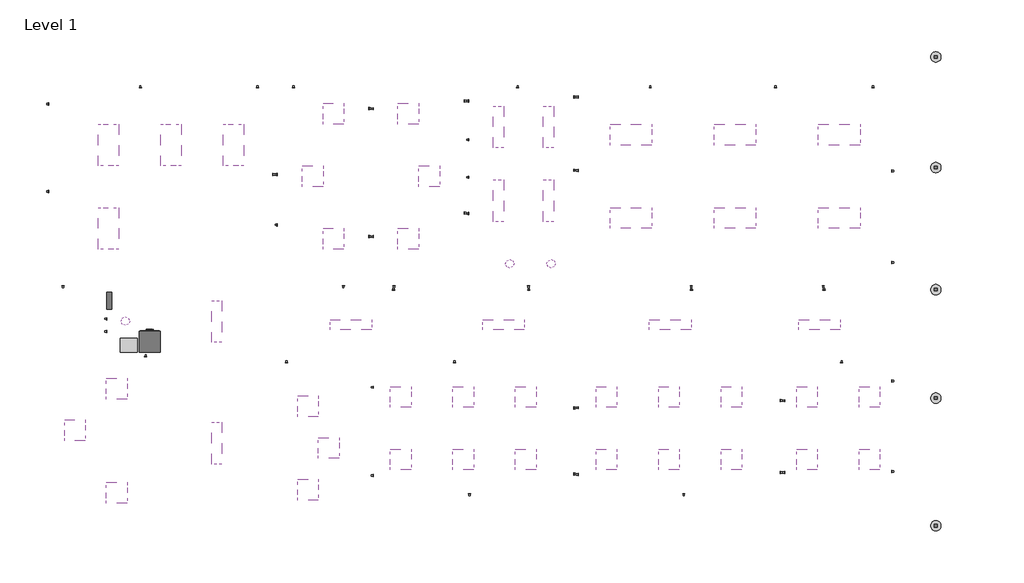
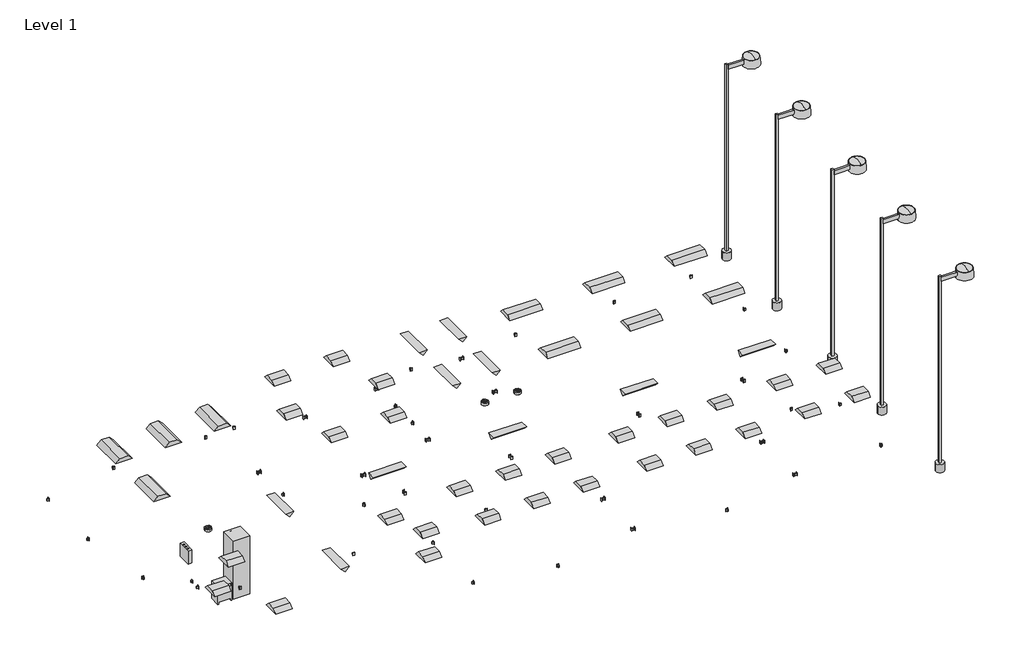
# One storey: 61 proxies, 56 light fixtures.
"""IFC4 building model written with IfcOpenShell, lengths in millimetres."""

from ifc_helpers import new_model, si_unit, origin, place, context, project, spatial, transform, mapped, element, save
from components import proxy_15_kva_b0f935c8, duplex_receptacle_standard_10251bba, lighting_and_appliance_panelboard_208v_100_a_7126e705, proxy_f2fcea41, ceiling_light_flat_round_60w_120v_a3c1fe64, plain_recessed_lighting_fixture_1x4_120_73690371, plain_recessed_lighting_fixture_2x2_120_2107ce2d, plain_recessed_lighting_fixture_2x4_120_d3d5fc87, street_light_standard_400w_halogen_120v_63d2c179

model = new_model("IFC4")

# Units and contexts
model_context = context("Model", 3, world=origin())
ifc_project = project(units=[si_unit("LENGTHUNIT", "METRE", prefix="MILLI")], contexts=[model_context])

# Site, building, storey
site = spatial("IfcSite", under=ifc_project)
building = spatial("IfcBuilding", under=site)
storey = spatial("IfcBuildingStorey", under=building, Name="Level 1", Elevation=0.0)

# Proxies
placement = place(None, origin())
proxy_15_kva_shape = proxy_15_kva_b0f935c8(model_context)
element("IfcBuildingElementProxy", 1, Name="Dry Type Transformer - 480-208Y120 - NEMA Type 2 : 15 kVA", ObjectType="Dry Type Transformer - 480-208Y120 - NEMA Type 2 : 15 kVA", at=placement, inside=storey, context=model_context, shape_type="MappedRepresentation", body=[
    mapped(proxy_15_kva_shape, transform((-9977.4200118, -1021.8173203, 0.0), x_axis=(-1.0, 0.0, 0.0), y_axis=(0.0, -1.0, 0.0), z_axis=(0.0, 0.0, 1.0))),
])
duplex_receptacle_standard_shape = duplex_receptacle_standard_10251bba(model_context)
element("IfcBuildingElementProxy", 2, Name="Duplex Receptacle : Standard", ObjectType="Duplex Receptacle : Standard", at=placement, inside=storey, context=model_context, shape_type="MappedRepresentation", body=[
    mapped(duplex_receptacle_standard_shape, transform((-35.6380103, 2648.1174507, 457.2), x_axis=(0.0, 1.0, 0.0), y_axis=(0.0, 0.0, 1.0), z_axis=(1.0, 0.0, 0.0))),
])
element("IfcBuildingElementProxy", 3, Name="Duplex Receptacle : Standard", ObjectType="Duplex Receptacle : Standard", at=placement, inside=storey, context=model_context, shape_type="MappedRepresentation", body=[
    mapped(duplex_receptacle_standard_shape, transform((-35.6380103, 3713.8918475, 457.2), x_axis=(0.0, 1.0, 0.0), y_axis=(0.0, 0.0, 1.0), z_axis=(1.0, 0.0, 0.0))),
])
element("IfcBuildingElementProxy", 4, Name="Duplex Receptacle : Standard", ObjectType="Duplex Receptacle : Standard", at=placement, inside=storey, context=model_context, shape_type="MappedRepresentation", body=[
    mapped(duplex_receptacle_standard_shape, transform((-35.6380103, 4811.7196097, 457.2), x_axis=(0.0, 1.0, 0.0), y_axis=(0.0, 0.0, 1.0), z_axis=(1.0, 0.0, 0.0))),
])
element("IfcBuildingElementProxy", 5, Name="Duplex Receptacle : Standard", ObjectType="Duplex Receptacle : Standard", at=placement, inside=storey, context=model_context, shape_type="MappedRepresentation", body=[
    mapped(duplex_receptacle_standard_shape, transform((-35.6380103, 5949.6140785, 457.2), x_axis=(0.0, 1.0, 0.0), y_axis=(0.0, 0.0, 1.0), z_axis=(1.0, 0.0, 0.0))),
])
element("IfcBuildingElementProxy", 6, Name="Duplex Receptacle : Standard", ObjectType="Duplex Receptacle : Standard", at=placement, inside=storey, context=model_context, shape_type="MappedRepresentation", body=[
    mapped(duplex_receptacle_standard_shape, transform((3054.9541807, 6058.3078836, 457.2), x_axis=(0.0, -1.0, 0.0), y_axis=(0.0, 0.0, 1.0), z_axis=(-1.0, 0.0, 0.0))),
])
element("IfcBuildingElementProxy", 7, Name="Duplex Receptacle : Standard", ObjectType="Duplex Receptacle : Standard", at=placement, inside=storey, context=model_context, shape_type="MappedRepresentation", body=[
    mapped(duplex_receptacle_standard_shape, transform((3054.9541807, 3918.7457486, 457.2), x_axis=(0.0, -1.0, 0.0), y_axis=(0.0, 0.0, 1.0), z_axis=(-1.0, 0.0, 0.0))),
])
element("IfcBuildingElementProxy", 8, Name="Duplex Receptacle : Standard", ObjectType="Duplex Receptacle : Standard", at=placement, inside=storey, context=model_context, shape_type="MappedRepresentation", body=[
    mapped(duplex_receptacle_standard_shape, transform((1404.1361978, 6330.7167452, 457.2), x_axis=(1.0, 0.0, 0.0), y_axis=(0.0, 0.0, 1.0), z_axis=(0.0, -1.0, 0.0))),
])
element("IfcBuildingElementProxy", 9, Name="Duplex Receptacle : Standard", ObjectType="Duplex Receptacle : Standard", at=placement, inside=storey, context=model_context, shape_type="MappedRepresentation", body=[
    mapped(duplex_receptacle_standard_shape, transform((-11896.9375423, 539.3362982, 457.2), x_axis=(-1.0, 0.0, 0.0), y_axis=(0.0, 0.0, 1.0), z_axis=(0.0, 1.0, 0.0))),
])
element("IfcBuildingElementProxy", 10, Name="Duplex Receptacle : Standard", ObjectType="Duplex Receptacle : Standard", at=placement, inside=storey, context=model_context, shape_type="MappedRepresentation", body=[
    mapped(duplex_receptacle_standard_shape, transform((-12326.8965226, 3293.728876, 457.2), x_axis=(0.0, 1.0, 0.0), y_axis=(0.0, 0.0, 1.0), z_axis=(1.0, 0.0, 0.0))),
])
element("IfcBuildingElementProxy", 11, Name="Duplex Receptacle : Standard", ObjectType="Duplex Receptacle : Standard", at=placement, inside=storey, context=model_context, shape_type="MappedRepresentation", body=[
    mapped(duplex_receptacle_standard_shape, transform((-12326.8965226, 5855.4034771, 457.2), x_axis=(0.0, 1.0, 0.0), y_axis=(0.0, 0.0, 1.0), z_axis=(1.0, 0.0, 0.0))),
])
element("IfcBuildingElementProxy", 12, Name="Duplex Receptacle : Standard", ObjectType="Duplex Receptacle : Standard", at=placement, inside=storey, context=model_context, shape_type="MappedRepresentation", body=[
    mapped(duplex_receptacle_standard_shape, transform((-9637.0519321, 6330.7167452, 457.2), x_axis=(1.0, 0.0, 0.0), y_axis=(0.0, 0.0, 1.0), z_axis=(0.0, -1.0, 0.0))),
])
element("IfcBuildingElementProxy", 13, Name="Duplex Receptacle : Standard", ObjectType="Duplex Receptacle : Standard", at=placement, inside=storey, context=model_context, shape_type="MappedRepresentation", body=[
    mapped(duplex_receptacle_standard_shape, transform((-6212.0214597, 6330.7167452, 457.2), x_axis=(1.0, 0.0, 0.0), y_axis=(0.0, 0.0, 1.0), z_axis=(0.0, -1.0, 0.0))),
])
element("IfcBuildingElementProxy", 14, Name="Duplex Receptacle : Standard", ObjectType="Duplex Receptacle : Standard", at=placement, inside=storey, context=model_context, shape_type="MappedRepresentation", body=[
    mapped(duplex_receptacle_standard_shape, transform((-5761.7329716, 3793.1487614, 457.2), x_axis=(0.0, -1.0, 0.0), y_axis=(0.0, 0.0, 1.0), z_axis=(-1.0, 0.0, 0.0))),
])
element("IfcBuildingElementProxy", 15, Name="Duplex Receptacle : Standard", ObjectType="Duplex Receptacle : Standard", at=placement, inside=storey, context=model_context, shape_type="MappedRepresentation", body=[
    mapped(duplex_receptacle_standard_shape, transform((-3696.8781677, 539.3362982, 457.2), x_axis=(-1.0, 0.0, 0.0), y_axis=(0.0, 0.0, 1.0), z_axis=(0.0, 1.0, 0.0))),
])
element("IfcBuildingElementProxy", 16, Name="Duplex Receptacle : Standard", ObjectType="Duplex Receptacle : Standard", at=placement, inside=storey, context=model_context, shape_type="MappedRepresentation", body=[
    mapped(duplex_receptacle_standard_shape, transform((-2943.0314516, 1977.435622, 457.2), x_axis=(0.0, -1.0, 0.0), y_axis=(0.0, 0.0, 1.0), z_axis=(-1.0, 0.0, 0.0))),
])
element("IfcBuildingElementProxy", 17, Name="Duplex Receptacle : Standard", ObjectType="Duplex Receptacle : Standard", at=placement, inside=storey, context=model_context, shape_type="MappedRepresentation", body=[
    mapped(duplex_receptacle_standard_shape, transform((-2943.0314516, 5727.6793643, 457.2), x_axis=(0.0, -1.0, 0.0), y_axis=(0.0, 0.0, 1.0), z_axis=(-1.0, 0.0, 0.0))),
])
element("IfcBuildingElementProxy", 18, Name="Duplex Receptacle : Standard", ObjectType="Duplex Receptacle : Standard", at=placement, inside=storey, context=model_context, shape_type="MappedRepresentation", body=[
    mapped(duplex_receptacle_standard_shape, transform((-5155.3062897, 6330.7167452, 457.2), x_axis=(1.0, 0.0, 0.0), y_axis=(0.0, 0.0, 1.0), z_axis=(0.0, -1.0, 0.0))),
])
element("IfcBuildingElementProxy", 19, Name="Duplex Receptacle : Standard", ObjectType="Duplex Receptacle : Standard", at=placement, inside=storey, context=model_context, shape_type="MappedRepresentation", body=[
    mapped(duplex_receptacle_standard_shape, transform((-5637.9079716, 3796.4641038, 457.2), x_axis=(0.0, 1.0, 0.0), y_axis=(0.0, 0.0, 1.0), z_axis=(1.0, 0.0, 0.0))),
])
element("IfcBuildingElementProxy", 20, Name="Duplex Receptacle : Standard", ObjectType="Duplex Receptacle : Standard", at=placement, inside=storey, context=model_context, shape_type="MappedRepresentation", body=[
    mapped(duplex_receptacle_standard_shape, transform((-5637.9079716, 2322.0092992, 457.2), x_axis=(0.0, 1.0, 0.0), y_axis=(0.0, 0.0, 1.0), z_axis=(1.0, 0.0, 0.0))),
])
element("IfcBuildingElementProxy", 21, Name="Duplex Receptacle : Standard", ObjectType="Duplex Receptacle : Standard", at=placement, inside=storey, context=model_context, shape_type="MappedRepresentation", body=[
    mapped(duplex_receptacle_standard_shape, transform((-2819.2064516, 5717.2271799, 457.2), x_axis=(0.0, 1.0, 0.0), y_axis=(0.0, 0.0, 1.0), z_axis=(1.0, 0.0, 0.0))),
])
element("IfcBuildingElementProxy", 22, Name="Duplex Receptacle : Standard", ObjectType="Duplex Receptacle : Standard", at=placement, inside=storey, context=model_context, shape_type="MappedRepresentation", body=[
    mapped(duplex_receptacle_standard_shape, transform((-2819.2064516, 1974.996779, 457.2), x_axis=(0.0, 1.0, 0.0), y_axis=(0.0, 0.0, 1.0), z_axis=(1.0, 0.0, 0.0))),
])
element("IfcBuildingElementProxy", 23, Name="Duplex Receptacle : Standard", ObjectType="Duplex Receptacle : Standard", at=placement, inside=storey, context=model_context, shape_type="MappedRepresentation", body=[
    mapped(duplex_receptacle_standard_shape, transform((-2217.8940832, 539.3362982, 457.2), x_axis=(-1.0, 0.0, 0.0), y_axis=(0.0, 0.0, 1.0), z_axis=(0.0, 1.0, 0.0))),
])
element("IfcBuildingElementProxy", 24, Name="Duplex Receptacle : Standard", ObjectType="Duplex Receptacle : Standard", at=placement, inside=storey, context=model_context, shape_type="MappedRepresentation", body=[
    mapped(duplex_receptacle_standard_shape, transform((-159.4630103, 5949.6140785, 457.2), x_axis=(0.0, -1.0, 0.0), y_axis=(0.0, 0.0, 1.0), z_axis=(-1.0, 0.0, 0.0))),
])
element("IfcBuildingElementProxy", 25, Name="Duplex Receptacle : Standard", ObjectType="Duplex Receptacle : Standard", at=placement, inside=storey, context=model_context, shape_type="MappedRepresentation", body=[
    mapped(duplex_receptacle_standard_shape, transform((-159.4630103, 2664.1441333, 457.2), x_axis=(0.0, -1.0, 0.0), y_axis=(0.0, 0.0, 1.0), z_axis=(-1.0, 0.0, 0.0))),
])
element("IfcBuildingElementProxy", 26, Name="Duplex Receptacle : Standard", ObjectType="Duplex Receptacle : Standard", at=placement, inside=storey, context=model_context, shape_type="MappedRepresentation", body=[
    mapped(duplex_receptacle_standard_shape, transform((3178.7791807, 3910.7324072, 457.2), x_axis=(0.0, 1.0, 0.0), y_axis=(0.0, 0.0, 1.0), z_axis=(1.0, 0.0, 0.0))),
])
element("IfcBuildingElementProxy", 27, Name="Duplex Receptacle : Standard", ObjectType="Duplex Receptacle : Standard", at=placement, inside=storey, context=model_context, shape_type="MappedRepresentation", body=[
    mapped(duplex_receptacle_standard_shape, transform((3178.7791807, 6058.3078836, 457.2), x_axis=(0.0, 1.0, 0.0), y_axis=(0.0, 0.0, 1.0), z_axis=(1.0, 0.0, 0.0))),
])
element("IfcBuildingElementProxy", 28, Name="Duplex Receptacle : Standard", ObjectType="Duplex Receptacle : Standard", at=placement, inside=storey, context=model_context, shape_type="MappedRepresentation", body=[
    mapped(duplex_receptacle_standard_shape, transform((5282.5934014, 6330.7167452, 457.2), x_axis=(1.0, 0.0, 0.0), y_axis=(0.0, 0.0, 1.0), z_axis=(0.0, -1.0, 0.0))),
])
element("IfcBuildingElementProxy", 29, Name="Duplex Receptacle : Standard", ObjectType="Duplex Receptacle : Standard", at=placement, inside=storey, context=model_context, shape_type="MappedRepresentation", body=[
    mapped(duplex_receptacle_standard_shape, transform((8952.7037304, 6330.7167452, 457.2), x_axis=(1.0, 0.0, 0.0), y_axis=(0.0, 0.0, 1.0), z_axis=(0.0, -1.0, 0.0))),
])
element("IfcBuildingElementProxy", 30, Name="Duplex Receptacle : Standard", ObjectType="Duplex Receptacle : Standard", at=placement, inside=storey, context=model_context, shape_type="MappedRepresentation", body=[
    mapped(duplex_receptacle_standard_shape, transform((11805.4532437, 6330.7167452, 457.2), x_axis=(1.0, 0.0, 0.0), y_axis=(0.0, 0.0, 1.0), z_axis=(0.0, -1.0, 0.0))),
])
element("IfcBuildingElementProxy", 31, Name="Duplex Receptacle : Standard", ObjectType="Duplex Receptacle : Standard", at=placement, inside=storey, context=model_context, shape_type="MappedRepresentation", body=[
    mapped(duplex_receptacle_standard_shape, transform((12355.5534774, 3898.1986981, 457.2), x_axis=(0.0, -1.0, 0.0), y_axis=(0.0, 0.0, 1.0), z_axis=(-1.0, 0.0, 0.0))),
])
element("IfcBuildingElementProxy", 32, Name="Duplex Receptacle : Standard", ObjectType="Duplex Receptacle : Standard", at=placement, inside=storey, context=model_context, shape_type="MappedRepresentation", body=[
    mapped(duplex_receptacle_standard_shape, transform((12355.5534774, 1221.742694, 457.2), x_axis=(0.0, -1.0, 0.0), y_axis=(0.0, 0.0, 1.0), z_axis=(-1.0, 0.0, 0.0))),
])
element("IfcBuildingElementProxy", 33, Name="Duplex Receptacle : Standard", ObjectType="Duplex Receptacle : Standard", at=placement, inside=storey, context=model_context, shape_type="MappedRepresentation", body=[
    mapped(duplex_receptacle_standard_shape, transform((10347.0251217, 539.3362982, 457.2), x_axis=(-1.0, 0.0, 0.0), y_axis=(0.0, 0.0, 1.0), z_axis=(0.0, 1.0, 0.0))),
])
element("IfcBuildingElementProxy", 34, Name="Duplex Receptacle : Standard", ObjectType="Duplex Receptacle : Standard", at=placement, inside=storey, context=model_context, shape_type="MappedRepresentation", body=[
    mapped(duplex_receptacle_standard_shape, transform((6484.5946008, 539.3362982, 457.2), x_axis=(-1.0, 0.0, 0.0), y_axis=(0.0, 0.0, 1.0), z_axis=(0.0, 1.0, 0.0))),
])
element("IfcBuildingElementProxy", 35, Name="Duplex Receptacle : Standard", ObjectType="Duplex Receptacle : Standard", at=placement, inside=storey, context=model_context, shape_type="MappedRepresentation", body=[
    mapped(duplex_receptacle_standard_shape, transform((10364.3439331, 415.5112982, 457.2), x_axis=(1.0, 0.0, 0.0), y_axis=(0.0, 0.0, 1.0), z_axis=(0.0, -1.0, 0.0))),
])
element("IfcBuildingElementProxy", 36, Name="Duplex Receptacle : Standard", ObjectType="Duplex Receptacle : Standard", at=placement, inside=storey, context=model_context, shape_type="MappedRepresentation", body=[
    mapped(duplex_receptacle_standard_shape, transform((6485.6062626, 415.5112982, 457.2), x_axis=(1.0, 0.0, 0.0), y_axis=(0.0, 0.0, 1.0), z_axis=(0.0, -1.0, 0.0))),
])
element("IfcBuildingElementProxy", 37, Name="Duplex Receptacle : Standard", ObjectType="Duplex Receptacle : Standard", at=placement, inside=storey, context=model_context, shape_type="MappedRepresentation", body=[
    mapped(duplex_receptacle_standard_shape, transform((1727.2641477, 415.5112982, 457.2), x_axis=(1.0, 0.0, 0.0), y_axis=(0.0, 0.0, 1.0), z_axis=(0.0, -1.0, 0.0))),
])
element("IfcBuildingElementProxy", 38, Name="Duplex Receptacle : Standard", ObjectType="Duplex Receptacle : Standard", at=placement, inside=storey, context=model_context, shape_type="MappedRepresentation", body=[
    mapped(duplex_receptacle_standard_shape, transform((1724.669851, 539.3362982, 457.2), x_axis=(-1.0, 0.0, 0.0), y_axis=(0.0, 0.0, 1.0), z_axis=(0.0, 1.0, 0.0))),
])
element("IfcBuildingElementProxy", 39, Name="Duplex Receptacle : Standard", ObjectType="Duplex Receptacle : Standard", at=placement, inside=storey, context=model_context, shape_type="MappedRepresentation", body=[
    mapped(duplex_receptacle_standard_shape, transform((-2225.6570301, 415.5112982, 457.2), x_axis=(1.0, 0.0, 0.0), y_axis=(0.0, 0.0, 1.0), z_axis=(0.0, -1.0, 0.0))),
])
element("IfcBuildingElementProxy", 40, Name="Duplex Receptacle : Standard", ObjectType="Duplex Receptacle : Standard", at=placement, inside=storey, context=model_context, shape_type="MappedRepresentation", body=[
    mapped(duplex_receptacle_standard_shape, transform((10884.0330798, -1710.3119449, 457.2), x_axis=(1.0, 0.0, 0.0), y_axis=(0.0, 0.0, 1.0), z_axis=(0.0, -1.0, 0.0))),
])
element("IfcBuildingElementProxy", 41, Name="Duplex Receptacle : Standard", ObjectType="Duplex Receptacle : Standard", at=placement, inside=storey, context=model_context, shape_type="MappedRepresentation", body=[
    mapped(duplex_receptacle_standard_shape, transform((12355.5534774, -2243.543179, 457.2), x_axis=(0.0, -1.0, 0.0), y_axis=(0.0, 0.0, 1.0), z_axis=(-1.0, 0.0, 0.0))),
])
element("IfcBuildingElementProxy", 42, Name="Duplex Receptacle : Standard", ObjectType="Duplex Receptacle : Standard", at=placement, inside=storey, context=model_context, shape_type="MappedRepresentation", body=[
    mapped(duplex_receptacle_standard_shape, transform((12355.5534774, -4891.4298793, 457.2), x_axis=(0.0, -1.0, 0.0), y_axis=(0.0, 0.0, 1.0), z_axis=(-1.0, 0.0, 0.0))),
])
element("IfcBuildingElementProxy", 43, Name="Duplex Receptacle : Standard", ObjectType="Duplex Receptacle : Standard", at=placement, inside=storey, context=model_context, shape_type="MappedRepresentation", body=[
    mapped(duplex_receptacle_standard_shape, transform((9215.7608002, -4927.7853031, 457.2), x_axis=(0.0, 1.0, 0.0), y_axis=(0.0, 0.0, 1.0), z_axis=(1.0, 0.0, 0.0))),
])
element("IfcBuildingElementProxy", 44, Name="Duplex Receptacle : Standard", ObjectType="Duplex Receptacle : Standard", at=placement, inside=storey, context=model_context, shape_type="MappedRepresentation", body=[
    mapped(duplex_receptacle_standard_shape, transform((9215.7608002, -2825.2299599, 457.2), x_axis=(0.0, 1.0, 0.0), y_axis=(0.0, 0.0, 1.0), z_axis=(1.0, 0.0, 0.0))),
])
element("IfcBuildingElementProxy", 45, Name="Duplex Receptacle : Standard", ObjectType="Duplex Receptacle : Standard", at=placement, inside=storey, context=model_context, shape_type="MappedRepresentation", body=[
    mapped(duplex_receptacle_standard_shape, transform((9091.9358002, -2822.2003412, 457.2), x_axis=(0.0, -1.0, 0.0), y_axis=(0.0, 0.0, 1.0), z_axis=(-1.0, 0.0, 0.0))),
])
element("IfcBuildingElementProxy", 46, Name="Duplex Receptacle : Standard", ObjectType="Duplex Receptacle : Standard", at=placement, inside=storey, context=model_context, shape_type="MappedRepresentation", body=[
    mapped(duplex_receptacle_standard_shape, transform((9091.9358002, -4926.5734556, 457.2), x_axis=(0.0, -1.0, 0.0), y_axis=(0.0, 0.0, 1.0), z_axis=(-1.0, 0.0, 0.0))),
])
element("IfcBuildingElementProxy", 47, Name="Duplex Receptacle : Standard", ObjectType="Duplex Receptacle : Standard", at=placement, inside=storey, context=model_context, shape_type="MappedRepresentation", body=[
    mapped(duplex_receptacle_standard_shape, transform((6264.7735239, -5550.1332548, 457.2), x_axis=(-1.0, 0.0, 0.0), y_axis=(0.0, 0.0, 1.0), z_axis=(0.0, 1.0, 0.0))),
])
element("IfcBuildingElementProxy", 48, Name="Duplex Receptacle : Standard", ObjectType="Duplex Receptacle : Standard", at=placement, inside=storey, context=model_context, shape_type="MappedRepresentation", body=[
    mapped(duplex_receptacle_standard_shape, transform((3178.7791807, -4982.3184388, 457.2), x_axis=(0.0, 1.0, 0.0), y_axis=(0.0, 0.0, 1.0), z_axis=(1.0, 0.0, 0.0))),
])
element("IfcBuildingElementProxy", 49, Name="Duplex Receptacle : Standard", ObjectType="Duplex Receptacle : Standard", at=placement, inside=storey, context=model_context, shape_type="MappedRepresentation", body=[
    mapped(duplex_receptacle_standard_shape, transform((3178.7791807, -3031.2440281, 457.2), x_axis=(0.0, 1.0, 0.0), y_axis=(0.0, 0.0, 1.0), z_axis=(1.0, 0.0, 0.0))),
])
element("IfcBuildingElementProxy", 50, Name="Duplex Receptacle : Standard", ObjectType="Duplex Receptacle : Standard", at=placement, inside=storey, context=model_context, shape_type="MappedRepresentation", body=[
    mapped(duplex_receptacle_standard_shape, transform((3054.9541807, -3040.6605751, 457.2), x_axis=(0.0, -1.0, 0.0), y_axis=(0.0, 0.0, 1.0), z_axis=(-1.0, 0.0, 0.0))),
])
element("IfcBuildingElementProxy", 51, Name="Duplex Receptacle : Standard", ObjectType="Duplex Receptacle : Standard", at=placement, inside=storey, context=model_context, shape_type="MappedRepresentation", body=[
    mapped(duplex_receptacle_standard_shape, transform((3054.9541807, -4971.8758356, 457.2), x_axis=(0.0, -1.0, 0.0), y_axis=(0.0, 0.0, 1.0), z_axis=(-1.0, 0.0, 0.0))),
])
element("IfcBuildingElementProxy", 52, Name="Duplex Receptacle : Standard", ObjectType="Duplex Receptacle : Standard", at=placement, inside=storey, context=model_context, shape_type="MappedRepresentation", body=[
    mapped(duplex_receptacle_standard_shape, transform((-2819.2064516, -5011.9425422, 457.2), x_axis=(0.0, 1.0, 0.0), y_axis=(0.0, 0.0, 1.0), z_axis=(1.0, 0.0, 0.0))),
])
element("IfcBuildingElementProxy", 53, Name="Duplex Receptacle : Standard", ObjectType="Duplex Receptacle : Standard", at=placement, inside=storey, context=model_context, shape_type="MappedRepresentation", body=[
    mapped(duplex_receptacle_standard_shape, transform((-2819.2064516, -2431.6466341, 457.2), x_axis=(0.0, 1.0, 0.0), y_axis=(0.0, 0.0, 1.0), z_axis=(1.0, 0.0, 0.0))),
])
element("IfcBuildingElementProxy", 54, Name="Duplex Receptacle : Standard", ObjectType="Duplex Receptacle : Standard", at=placement, inside=storey, context=model_context, shape_type="MappedRepresentation", body=[
    mapped(duplex_receptacle_standard_shape, transform((-443.3364786, -1710.3119449, 457.2), x_axis=(1.0, 0.0, 0.0), y_axis=(0.0, 0.0, 1.0), z_axis=(0.0, -1.0, 0.0))),
])
element("IfcBuildingElementProxy", 55, Name="Duplex Receptacle : Standard", ObjectType="Duplex Receptacle : Standard", at=placement, inside=storey, context=model_context, shape_type="MappedRepresentation", body=[
    mapped(duplex_receptacle_standard_shape, transform((-2.6027055, -5550.1332548, 457.2), x_axis=(-1.0, 0.0, 0.0), y_axis=(0.0, 0.0, 1.0), z_axis=(0.0, 1.0, 0.0))),
])
element("IfcBuildingElementProxy", 56, Name="Duplex Receptacle : Standard", ObjectType="Duplex Receptacle : Standard", at=placement, inside=storey, context=model_context, shape_type="MappedRepresentation", body=[
    mapped(duplex_receptacle_standard_shape, transform((-5361.484653, -1710.3119449, 457.2), x_axis=(1.0, 0.0, 0.0), y_axis=(0.0, 0.0, 1.0), z_axis=(0.0, -1.0, 0.0))),
])
element("IfcBuildingElementProxy", 57, Name="Duplex Receptacle : Standard", ObjectType="Duplex Receptacle : Standard", at=placement, inside=storey, context=model_context, shape_type="MappedRepresentation", body=[
    mapped(duplex_receptacle_standard_shape, transform((-9480.7427635, -1530.7127622, 457.2), x_axis=(1.0, 0.0, 0.0), y_axis=(0.0, 0.0, 1.0), z_axis=(0.0, -1.0, 0.0))),
])
element("IfcBuildingElementProxy", 58, Name="Duplex Receptacle : Standard", ObjectType="Duplex Receptacle : Standard", at=placement, inside=storey, context=model_context, shape_type="MappedRepresentation", body=[
    mapped(duplex_receptacle_standard_shape, transform((-10618.9849987, -802.683715, 457.2), x_axis=(0.0, 1.0, 0.0), y_axis=(0.0, 0.0, 1.0), z_axis=(1.0, 0.0, 0.0))),
])
element("IfcBuildingElementProxy", 59, Name="Duplex Receptacle : Standard", ObjectType="Duplex Receptacle : Standard", at=placement, inside=storey, context=model_context, shape_type="MappedRepresentation", body=[
    mapped(duplex_receptacle_standard_shape, transform((-10618.9849987, -428.1176265, 457.2), x_axis=(0.0, 1.0, 0.0), y_axis=(0.0, 0.0, 1.0), z_axis=(1.0, 0.0, 0.0))),
])
lighting_and_appliance_panelboard_208v_100_a_shape = lighting_and_appliance_panelboard_208v_100_a_7126e705(model_context)
element("IfcBuildingElementProxy", 60, Name="Lighting and Appliance Panelboard - 208V : 100 A", ObjectType="Lighting and Appliance Panelboard - 208V : 100 A", at=placement, inside=storey, context=model_context, shape_type="MappedRepresentation", body=[
    mapped(lighting_and_appliance_panelboard_208v_100_a_shape, transform((-10618.9849987, 99.6800437, 1219.2), x_axis=(0.0, 1.0, 0.0), y_axis=(0.0, 0.0, -1.0), z_axis=(-1.0, 0.0, 0.0))),
])
proxy_shape = proxy_f2fcea41(model_context)
element("IfcBuildingElementProxy", 61, Name="Metering Switchboard : 24\"x26.25\"", ObjectType="Metering Switchboard : 24\"x26.25\"", at=placement, inside=storey, context=model_context, shape_type="MappedRepresentation", body=[
    mapped(proxy_shape, transform((-9356.388949, -1404.6099297, 0.0), x_axis=(-1.0, 0.0, 0.0), y_axis=(0.0, -1.0, 0.0), z_axis=(0.0, 0.0, 1.0))),
])

# Light fixtures
ceiling_light_flat_round_60w_120v_shape = ceiling_light_flat_round_60w_120v_a3c1fe64(model_context)
element("IfcLightFixture", 62, ObjectType="Ceiling Light - Flat Round : 60W - 120V", at=placement, inside=storey, context=model_context, shape_type="MappedRepresentation", body=[
    mapped(ceiling_light_flat_round_60w_120v_shape, transform((2383.8661295, 1183.5273163, 2438.4), x_axis=(1.0, 0.0, 0.0), y_axis=(0.0, -1.0, 0.0), z_axis=(0.0, 0.0, -1.0))),
])
element("IfcLightFixture", 63, ObjectType="Ceiling Light - Flat Round : 60W - 120V", at=placement, inside=storey, context=model_context, shape_type="MappedRepresentation", body=[
    mapped(ceiling_light_flat_round_60w_120v_shape, transform((1173.2843647, 1183.5273163, 2438.4), x_axis=(1.0, 0.0, 0.0), y_axis=(0.0, -1.0, 0.0), z_axis=(0.0, 0.0, -1.0))),
])
element("IfcLightFixture", 64, ObjectType="Ceiling Light - Flat Round : 60W - 120V", at=placement, inside=storey, context=model_context, shape_type="MappedRepresentation", body=[
    mapped(ceiling_light_flat_round_60w_120v_shape, transform((-10072.8185222, -495.688232, 2438.4), x_axis=(1.0, 0.0, 0.0), y_axis=(0.0, -1.0, 0.0), z_axis=(0.0, 0.0, -1.0))),
])
plain_recessed_lighting_fixture_1x4_120_shape = plain_recessed_lighting_fixture_1x4_120_73690371(model_context)
element("IfcLightFixture", 65, ObjectType="Plain Recessed Lighting Fixture : 1x4 - 120", at=placement, inside=storey, context=model_context, shape_type="MappedRepresentation", body=[
    mapped(plain_recessed_lighting_fixture_1x4_120_shape, transform((-4086.8396974, -448.5225822, 2438.4), x_axis=(1.0, 0.0, 0.0), y_axis=(0.0, 1.0, 0.0), z_axis=(0.0, 0.0, 1.0))),
])
element("IfcLightFixture", 66, ObjectType="Plain Recessed Lighting Fixture : 1x4 - 120", at=placement, inside=storey, context=model_context, shape_type="MappedRepresentation", body=[
    mapped(plain_recessed_lighting_fixture_1x4_120_shape, transform((383.5603026, -448.5225822, 2438.4), x_axis=(1.0, 0.0, 0.0), y_axis=(0.0, 1.0, 0.0), z_axis=(0.0, 0.0, 1.0))),
])
element("IfcLightFixture", 67, ObjectType="Plain Recessed Lighting Fixture : 1x4 - 120", at=placement, inside=storey, context=model_context, shape_type="MappedRepresentation", body=[
    mapped(plain_recessed_lighting_fixture_1x4_120_shape, transform((5260.3603026, -448.5225822, 2438.4), x_axis=(1.0, 0.0, 0.0), y_axis=(0.0, 1.0, 0.0), z_axis=(0.0, 0.0, 1.0))),
])
element("IfcLightFixture", 68, ObjectType="Plain Recessed Lighting Fixture : 1x4 - 120", at=placement, inside=storey, context=model_context, shape_type="MappedRepresentation", body=[
    mapped(plain_recessed_lighting_fixture_1x4_120_shape, transform((9629.1603026, -448.5225822, 2438.4), x_axis=(1.0, 0.0, 0.0), y_axis=(0.0, 1.0, 0.0), z_axis=(0.0, 0.0, 1.0))),
])
element("IfcLightFixture", 69, ObjectType="Plain Recessed Lighting Fixture : 1x4 - 120", at=placement, inside=storey, context=model_context, shape_type="MappedRepresentation", body=[
    mapped(plain_recessed_lighting_fixture_1x4_120_shape, transform((-7553.1170415, -1121.3482269, 2438.4), x_axis=(0.0, 1.0, 0.0), y_axis=(-1.0, 0.0, 0.0), z_axis=(0.0, 0.0, 1.0))),
])
element("IfcLightFixture", 70, ObjectType="Plain Recessed Lighting Fixture : 1x4 - 120", at=placement, inside=storey, context=model_context, shape_type="MappedRepresentation", body=[
    mapped(plain_recessed_lighting_fixture_1x4_120_shape, transform((-7553.1170415, -4680.447715, 2438.4), x_axis=(0.0, 1.0, 0.0), y_axis=(-1.0, 0.0, 0.0), z_axis=(0.0, 0.0, 1.0))),
])
element("IfcLightFixture", 71, ObjectType="Plain Recessed Lighting Fixture : 1x4 - 120", at=placement, inside=storey, context=model_context, shape_type="MappedRepresentation", body=[
    mapped(plain_recessed_lighting_fixture_1x4_120_shape, transform((690.4888321, 4574.6175062, 2438.4), x_axis=(0.0, 1.0, 0.0), y_axis=(-1.0, 0.0, 0.0), z_axis=(0.0, 0.0, 1.0))),
])
element("IfcLightFixture", 72, ObjectType="Plain Recessed Lighting Fixture : 1x4 - 120", at=placement, inside=storey, context=model_context, shape_type="MappedRepresentation", body=[
    mapped(plain_recessed_lighting_fixture_1x4_120_shape, transform((2158.6173709, 4574.6175062, 2438.4), x_axis=(0.0, 1.0, 0.0), y_axis=(-1.0, 0.0, 0.0), z_axis=(0.0, 0.0, 1.0))),
])
element("IfcLightFixture", 73, ObjectType="Plain Recessed Lighting Fixture : 1x4 - 120", at=placement, inside=storey, context=model_context, shape_type="MappedRepresentation", body=[
    mapped(plain_recessed_lighting_fixture_1x4_120_shape, transform((2158.6173709, 2416.9134415, 2438.4), x_axis=(0.0, 1.0, 0.0), y_axis=(-1.0, 0.0, 0.0), z_axis=(0.0, 0.0, 1.0))),
])
element("IfcLightFixture", 74, ObjectType="Plain Recessed Lighting Fixture : 1x4 - 120", at=placement, inside=storey, context=model_context, shape_type="MappedRepresentation", body=[
    mapped(plain_recessed_lighting_fixture_1x4_120_shape, transform((690.4888321, 2416.9134415, 2438.4), x_axis=(0.0, 1.0, 0.0), y_axis=(-1.0, 0.0, 0.0), z_axis=(0.0, 0.0, 1.0))),
])
plain_recessed_lighting_fixture_2x2_120_shape = plain_recessed_lighting_fixture_2x2_120_2107ce2d(model_context)
element("IfcLightFixture", 75, ObjectType="Plain Recessed Lighting Fixture : 2x2 - 120", at=placement, inside=storey, context=model_context, shape_type="MappedRepresentation", body=[
    mapped(plain_recessed_lighting_fixture_2x2_120_shape, transform((-2320.5261355, -3020.6225998, 2438.4), x_axis=(1.0, 0.0, 0.0), y_axis=(0.0, -1.0, 0.0), z_axis=(0.0, 0.0, -1.0))),
])
element("IfcLightFixture", 76, ObjectType="Plain Recessed Lighting Fixture : 2x2 - 120", at=placement, inside=storey, context=model_context, shape_type="MappedRepresentation", body=[
    mapped(plain_recessed_lighting_fixture_2x2_120_shape, transform((-2320.5261355, -4849.4225998, 2438.4), x_axis=(1.0, 0.0, 0.0), y_axis=(0.0, -1.0, 0.0), z_axis=(0.0, 0.0, -1.0))),
])
element("IfcLightFixture", 77, ObjectType="Plain Recessed Lighting Fixture : 2x2 - 120", at=placement, inside=storey, context=model_context, shape_type="MappedRepresentation", body=[
    mapped(plain_recessed_lighting_fixture_2x2_120_shape, transform((-491.7261355, -3020.6225998, 2438.4), x_axis=(1.0, 0.0, 0.0), y_axis=(0.0, -1.0, 0.0), z_axis=(0.0, 0.0, -1.0))),
])
element("IfcLightFixture", 78, ObjectType="Plain Recessed Lighting Fixture : 2x2 - 120", at=placement, inside=storey, context=model_context, shape_type="MappedRepresentation", body=[
    mapped(plain_recessed_lighting_fixture_2x2_120_shape, transform((-491.7261355, -4849.4225998, 2438.4), x_axis=(1.0, 0.0, 0.0), y_axis=(0.0, -1.0, 0.0), z_axis=(0.0, 0.0, -1.0))),
])
element("IfcLightFixture", 79, ObjectType="Plain Recessed Lighting Fixture : 2x2 - 120", at=placement, inside=storey, context=model_context, shape_type="MappedRepresentation", body=[
    mapped(plain_recessed_lighting_fixture_2x2_120_shape, transform((1337.0738645, -3020.6225998, 2438.4), x_axis=(1.0, 0.0, 0.0), y_axis=(0.0, -1.0, 0.0), z_axis=(0.0, 0.0, -1.0))),
])
element("IfcLightFixture", 80, ObjectType="Plain Recessed Lighting Fixture : 2x2 - 120", at=placement, inside=storey, context=model_context, shape_type="MappedRepresentation", body=[
    mapped(plain_recessed_lighting_fixture_2x2_120_shape, transform((1337.0738645, -4849.4225998, 2438.4), x_axis=(1.0, 0.0, 0.0), y_axis=(0.0, -1.0, 0.0), z_axis=(0.0, 0.0, -1.0))),
])
element("IfcLightFixture", 81, ObjectType="Plain Recessed Lighting Fixture : 2x2 - 120", at=placement, inside=storey, context=model_context, shape_type="MappedRepresentation", body=[
    mapped(plain_recessed_lighting_fixture_2x2_120_shape, transform((3696.9574904, -3020.6225998, 2438.4), x_axis=(1.0, 0.0, 0.0), y_axis=(0.0, -1.0, 0.0), z_axis=(0.0, 0.0, -1.0))),
])
element("IfcLightFixture", 82, ObjectType="Plain Recessed Lighting Fixture : 2x2 - 120", at=placement, inside=storey, context=model_context, shape_type="MappedRepresentation", body=[
    mapped(plain_recessed_lighting_fixture_2x2_120_shape, transform((3696.9574904, -4849.4225998, 2438.4), x_axis=(1.0, 0.0, 0.0), y_axis=(0.0, -1.0, 0.0), z_axis=(0.0, 0.0, -1.0))),
])
element("IfcLightFixture", 83, ObjectType="Plain Recessed Lighting Fixture : 2x2 - 120", at=placement, inside=storey, context=model_context, shape_type="MappedRepresentation", body=[
    mapped(plain_recessed_lighting_fixture_2x2_120_shape, transform((5525.7574904, -3020.6225998, 2438.4), x_axis=(1.0, 0.0, 0.0), y_axis=(0.0, -1.0, 0.0), z_axis=(0.0, 0.0, -1.0))),
])
element("IfcLightFixture", 84, ObjectType="Plain Recessed Lighting Fixture : 2x2 - 120", at=placement, inside=storey, context=model_context, shape_type="MappedRepresentation", body=[
    mapped(plain_recessed_lighting_fixture_2x2_120_shape, transform((5525.7574904, -4849.4225998, 2438.4), x_axis=(1.0, 0.0, 0.0), y_axis=(0.0, -1.0, 0.0), z_axis=(0.0, 0.0, -1.0))),
])
element("IfcLightFixture", 85, ObjectType="Plain Recessed Lighting Fixture : 2x2 - 120", at=placement, inside=storey, context=model_context, shape_type="MappedRepresentation", body=[
    mapped(plain_recessed_lighting_fixture_2x2_120_shape, transform((7354.5574904, -3020.6225998, 2438.4), x_axis=(1.0, 0.0, 0.0), y_axis=(0.0, -1.0, 0.0), z_axis=(0.0, 0.0, -1.0))),
])
element("IfcLightFixture", 86, ObjectType="Plain Recessed Lighting Fixture : 2x2 - 120", at=placement, inside=storey, context=model_context, shape_type="MappedRepresentation", body=[
    mapped(plain_recessed_lighting_fixture_2x2_120_shape, transform((7354.5574904, -4849.4225998, 2438.4), x_axis=(1.0, 0.0, 0.0), y_axis=(0.0, -1.0, 0.0), z_axis=(0.0, 0.0, -1.0))),
])
element("IfcLightFixture", 87, ObjectType="Plain Recessed Lighting Fixture : 2x2 - 120", at=placement, inside=storey, context=model_context, shape_type="MappedRepresentation", body=[
    mapped(plain_recessed_lighting_fixture_2x2_120_shape, transform((9566.4571388, -3020.6225998, 2438.4), x_axis=(1.0, 0.0, 0.0), y_axis=(0.0, -1.0, 0.0), z_axis=(0.0, 0.0, -1.0))),
])
element("IfcLightFixture", 88, ObjectType="Plain Recessed Lighting Fixture : 2x2 - 120", at=placement, inside=storey, context=model_context, shape_type="MappedRepresentation", body=[
    mapped(plain_recessed_lighting_fixture_2x2_120_shape, transform((11395.2571388, -3020.6225998, 2438.4), x_axis=(1.0, 0.0, 0.0), y_axis=(0.0, -1.0, 0.0), z_axis=(0.0, 0.0, -1.0))),
])
element("IfcLightFixture", 89, ObjectType="Plain Recessed Lighting Fixture : 2x2 - 120", at=placement, inside=storey, context=model_context, shape_type="MappedRepresentation", body=[
    mapped(plain_recessed_lighting_fixture_2x2_120_shape, transform((9566.4571388, -4849.4225998, 2438.4), x_axis=(1.0, 0.0, 0.0), y_axis=(0.0, -1.0, 0.0), z_axis=(0.0, 0.0, -1.0))),
])
element("IfcLightFixture", 90, ObjectType="Plain Recessed Lighting Fixture : 2x2 - 120", at=placement, inside=storey, context=model_context, shape_type="MappedRepresentation", body=[
    mapped(plain_recessed_lighting_fixture_2x2_120_shape, transform((11395.2571388, -4849.4225998, 2438.4), x_axis=(1.0, 0.0, 0.0), y_axis=(0.0, -1.0, 0.0), z_axis=(0.0, 0.0, -1.0))),
])
element("IfcLightFixture", 91, ObjectType="Plain Recessed Lighting Fixture : 2x2 - 120", at=placement, inside=storey, context=model_context, shape_type="MappedRepresentation", body=[
    mapped(plain_recessed_lighting_fixture_2x2_120_shape, transform((-4290.4697116, 5263.8265217, 2438.4), x_axis=(1.0, 0.0, 0.0), y_axis=(0.0, -1.0, 0.0), z_axis=(0.0, 0.0, -1.0))),
])
element("IfcLightFixture", 92, ObjectType="Plain Recessed Lighting Fixture : 2x2 - 120", at=placement, inside=storey, context=model_context, shape_type="MappedRepresentation", body=[
    mapped(plain_recessed_lighting_fixture_2x2_120_shape, transform((-4900.0697116, 3435.0265217, 2438.4), x_axis=(1.0, 0.0, 0.0), y_axis=(0.0, -1.0, 0.0), z_axis=(0.0, 0.0, -1.0))),
])
element("IfcLightFixture", 93, ObjectType="Plain Recessed Lighting Fixture : 2x2 - 120", at=placement, inside=storey, context=model_context, shape_type="MappedRepresentation", body=[
    mapped(plain_recessed_lighting_fixture_2x2_120_shape, transform((-4290.4697116, 1606.2265217, 2438.4), x_axis=(1.0, 0.0, 0.0), y_axis=(0.0, -1.0, 0.0), z_axis=(0.0, 0.0, -1.0))),
])
element("IfcLightFixture", 94, ObjectType="Plain Recessed Lighting Fixture : 2x2 - 120", at=placement, inside=storey, context=model_context, shape_type="MappedRepresentation", body=[
    mapped(plain_recessed_lighting_fixture_2x2_120_shape, transform((-2098.9347309, 5263.8265217, 2438.4), x_axis=(1.0, 0.0, 0.0), y_axis=(0.0, -1.0, 0.0), z_axis=(0.0, 0.0, -1.0))),
])
element("IfcLightFixture", 95, ObjectType="Plain Recessed Lighting Fixture : 2x2 - 120", at=placement, inside=storey, context=model_context, shape_type="MappedRepresentation", body=[
    mapped(plain_recessed_lighting_fixture_2x2_120_shape, transform((-1489.3347309, 3435.0265217, 2438.4), x_axis=(1.0, 0.0, 0.0), y_axis=(0.0, -1.0, 0.0), z_axis=(0.0, 0.0, -1.0))),
])
element("IfcLightFixture", 96, ObjectType="Plain Recessed Lighting Fixture : 2x2 - 120", at=placement, inside=storey, context=model_context, shape_type="MappedRepresentation", body=[
    mapped(plain_recessed_lighting_fixture_2x2_120_shape, transform((-2098.9347309, 1606.2265217, 2438.4), x_axis=(1.0, 0.0, 0.0), y_axis=(0.0, -1.0, 0.0), z_axis=(0.0, 0.0, -1.0))),
])
element("IfcLightFixture", 97, ObjectType="Plain Recessed Lighting Fixture : 2x2 - 120", at=placement, inside=storey, context=model_context, shape_type="MappedRepresentation", body=[
    mapped(plain_recessed_lighting_fixture_2x2_120_shape, transform((-10634.0662487, -2778.4230085, 2438.4), x_axis=(1.0, 0.0, 0.0), y_axis=(0.0, -1.0, 0.0), z_axis=(0.0, 0.0, -1.0))),
])
element("IfcLightFixture", 98, ObjectType="Plain Recessed Lighting Fixture : 2x2 - 120", at=placement, inside=storey, context=model_context, shape_type="MappedRepresentation", body=[
    mapped(plain_recessed_lighting_fixture_2x2_120_shape, transform((-11853.2662487, -3997.6230085, 2438.4), x_axis=(1.0, 0.0, 0.0), y_axis=(0.0, -1.0, 0.0), z_axis=(0.0, 0.0, -1.0))),
])
element("IfcLightFixture", 99, ObjectType="Plain Recessed Lighting Fixture : 2x2 - 120", at=placement, inside=storey, context=model_context, shape_type="MappedRepresentation", body=[
    mapped(plain_recessed_lighting_fixture_2x2_120_shape, transform((-10634.0662487, -5826.4230085, 2438.4), x_axis=(1.0, 0.0, 0.0), y_axis=(0.0, -1.0, 0.0), z_axis=(0.0, 0.0, -1.0))),
])
element("IfcLightFixture", 100, ObjectType="Plain Recessed Lighting Fixture : 2x2 - 120", at=placement, inside=storey, context=model_context, shape_type="MappedRepresentation", body=[
    mapped(plain_recessed_lighting_fixture_2x2_120_shape, transform((-5034.7690987, -3296.1440733, 2438.4), x_axis=(1.0, 0.0, 0.0), y_axis=(0.0, -1.0, 0.0), z_axis=(0.0, 0.0, -1.0))),
])
element("IfcLightFixture", 101, ObjectType="Plain Recessed Lighting Fixture : 2x2 - 120", at=placement, inside=storey, context=model_context, shape_type="MappedRepresentation", body=[
    mapped(plain_recessed_lighting_fixture_2x2_120_shape, transform((-4425.1690987, -4515.3440733, 2438.4), x_axis=(1.0, 0.0, 0.0), y_axis=(0.0, -1.0, 0.0), z_axis=(0.0, 0.0, -1.0))),
])
element("IfcLightFixture", 102, ObjectType="Plain Recessed Lighting Fixture : 2x2 - 120", at=placement, inside=storey, context=model_context, shape_type="MappedRepresentation", body=[
    mapped(plain_recessed_lighting_fixture_2x2_120_shape, transform((-5034.7690987, -5734.5440733, 2438.4), x_axis=(1.0, 0.0, 0.0), y_axis=(0.0, -1.0, 0.0), z_axis=(0.0, 0.0, -1.0))),
])
plain_recessed_lighting_fixture_2x4_120_shape = plain_recessed_lighting_fixture_2x4_120_d3d5fc87(model_context)
element("IfcLightFixture", 103, ObjectType="Plain Recessed Lighting Fixture : 2x4 - 120", at=placement, inside=storey, context=model_context, shape_type="MappedRepresentation", body=[
    mapped(plain_recessed_lighting_fixture_2x4_120_shape, transform((4109.566329, 4654.2265217, 2438.4), x_axis=(1.0, 0.0, 0.0), y_axis=(0.0, -1.0, 0.0), z_axis=(0.0, 0.0, -1.0))),
])
element("IfcLightFixture", 104, ObjectType="Plain Recessed Lighting Fixture : 2x4 - 120", at=placement, inside=storey, context=model_context, shape_type="MappedRepresentation", body=[
    mapped(plain_recessed_lighting_fixture_2x4_120_shape, transform((7157.566329, 4654.2265217, 2438.4), x_axis=(1.0, 0.0, 0.0), y_axis=(0.0, -1.0, 0.0), z_axis=(0.0, 0.0, -1.0))),
])
element("IfcLightFixture", 105, ObjectType="Plain Recessed Lighting Fixture : 2x4 - 120", at=placement, inside=storey, context=model_context, shape_type="MappedRepresentation", body=[
    mapped(plain_recessed_lighting_fixture_2x4_120_shape, transform((10205.566329, 4654.2265217, 2438.4), x_axis=(1.0, 0.0, 0.0), y_axis=(0.0, -1.0, 0.0), z_axis=(0.0, 0.0, -1.0))),
])
element("IfcLightFixture", 106, ObjectType="Plain Recessed Lighting Fixture : 2x4 - 120", at=placement, inside=storey, context=model_context, shape_type="MappedRepresentation", body=[
    mapped(plain_recessed_lighting_fixture_2x4_120_shape, transform((4109.566329, 2215.8265217, 2438.4), x_axis=(1.0, 0.0, 0.0), y_axis=(0.0, -1.0, 0.0), z_axis=(0.0, 0.0, -1.0))),
])
element("IfcLightFixture", 107, ObjectType="Plain Recessed Lighting Fixture : 2x4 - 120", at=placement, inside=storey, context=model_context, shape_type="MappedRepresentation", body=[
    mapped(plain_recessed_lighting_fixture_2x4_120_shape, transform((7157.566329, 2215.8265217, 2438.4), x_axis=(1.0, 0.0, 0.0), y_axis=(0.0, -1.0, 0.0), z_axis=(0.0, 0.0, -1.0))),
])
element("IfcLightFixture", 108, ObjectType="Plain Recessed Lighting Fixture : 2x4 - 120", at=placement, inside=storey, context=model_context, shape_type="MappedRepresentation", body=[
    mapped(plain_recessed_lighting_fixture_2x4_120_shape, transform((10205.566329, 2215.8265217, 2438.4), x_axis=(1.0, 0.0, 0.0), y_axis=(0.0, -1.0, 0.0), z_axis=(0.0, 0.0, -1.0))),
])
element("IfcLightFixture", 109, ObjectType="Plain Recessed Lighting Fixture : 2x4 - 120", at=placement, inside=storey, context=model_context, shape_type="MappedRepresentation", body=[
    mapped(plain_recessed_lighting_fixture_2x4_120_shape, transform((-7215.5147471, 5263.8265217, 2438.4), x_axis=(0.0, -1.0, 0.0), y_axis=(-1.0, 0.0, 0.0), z_axis=(0.0, 0.0, -1.0))),
])
element("IfcLightFixture", 110, ObjectType="Plain Recessed Lighting Fixture : 2x4 - 120", at=placement, inside=storey, context=model_context, shape_type="MappedRepresentation", body=[
    mapped(plain_recessed_lighting_fixture_2x4_120_shape, transform((-9044.3147471, 5263.8265217, 2438.4), x_axis=(0.0, -1.0, 0.0), y_axis=(-1.0, 0.0, 0.0), z_axis=(0.0, 0.0, -1.0))),
])
element("IfcLightFixture", 111, ObjectType="Plain Recessed Lighting Fixture : 2x4 - 120", at=placement, inside=storey, context=model_context, shape_type="MappedRepresentation", body=[
    mapped(plain_recessed_lighting_fixture_2x4_120_shape, transform((-10873.1147471, 5263.8265217, 2438.4), x_axis=(0.0, -1.0, 0.0), y_axis=(-1.0, 0.0, 0.0), z_axis=(0.0, 0.0, -1.0))),
])
element("IfcLightFixture", 112, ObjectType="Plain Recessed Lighting Fixture : 2x4 - 120", at=placement, inside=storey, context=model_context, shape_type="MappedRepresentation", body=[
    mapped(plain_recessed_lighting_fixture_2x4_120_shape, transform((-10873.1147471, 2825.4265217, 2438.4), x_axis=(0.0, -1.0, 0.0), y_axis=(-1.0, 0.0, 0.0), z_axis=(0.0, 0.0, -1.0))),
])
street_light_standard_400w_halogen_120v_shape = street_light_standard_400w_halogen_120v_63d2c179(model_context)
element("IfcLightFixture", 113, ObjectType="Street Light - Standard : 400W Halogen - 120V", at=placement, inside=storey, context=model_context, shape_type="MappedRepresentation", body=[
    mapped(street_light_standard_400w_halogen_120v_shape, transform((13638.4206878, -6482.4996817, 0.0), x_axis=(-1.0, 0.0, 0.0), y_axis=(0.0, -1.0, 0.0), z_axis=(0.0, 0.0, 1.0))),
])
element("IfcLightFixture", 114, ObjectType="Street Light - Standard : 400W Halogen - 120V", at=placement, inside=storey, context=model_context, shape_type="MappedRepresentation", body=[
    mapped(street_light_standard_400w_halogen_120v_shape, transform((13638.4206878, -2748.4447591, 0.0), x_axis=(-1.0, 0.0, 0.0), y_axis=(0.0, -1.0, 0.0), z_axis=(0.0, 0.0, 1.0))),
])
element("IfcLightFixture", 115, ObjectType="Street Light - Standard : 400W Halogen - 120V", at=placement, inside=storey, context=model_context, shape_type="MappedRepresentation", body=[
    mapped(street_light_standard_400w_halogen_120v_shape, transform((13638.4206878, 425.8506431, 0.0), x_axis=(-1.0, 0.0, 0.0), y_axis=(0.0, -1.0, 0.0), z_axis=(0.0, 0.0, 1.0))),
])
element("IfcLightFixture", 116, ObjectType="Street Light - Standard : 400W Halogen - 120V", at=placement, inside=storey, context=model_context, shape_type="MappedRepresentation", body=[
    mapped(street_light_standard_400w_halogen_120v_shape, transform((13638.4206878, 3998.1498485, 0.0), x_axis=(-1.0, 0.0, 0.0), y_axis=(0.0, -1.0, 0.0), z_axis=(0.0, 0.0, 1.0))),
])
element("IfcLightFixture", 117, ObjectType="Street Light - Standard : 400W Halogen - 120V", at=placement, inside=storey, context=model_context, shape_type="MappedRepresentation", body=[
    mapped(street_light_standard_400w_halogen_120v_shape, transform((13638.4206878, 7233.6809624, 0.0), x_axis=(-1.0, 0.0, 0.0), y_axis=(0.0, -1.0, 0.0), z_axis=(0.0, 0.0, 1.0))),
])

save(model, "model.ifc")
